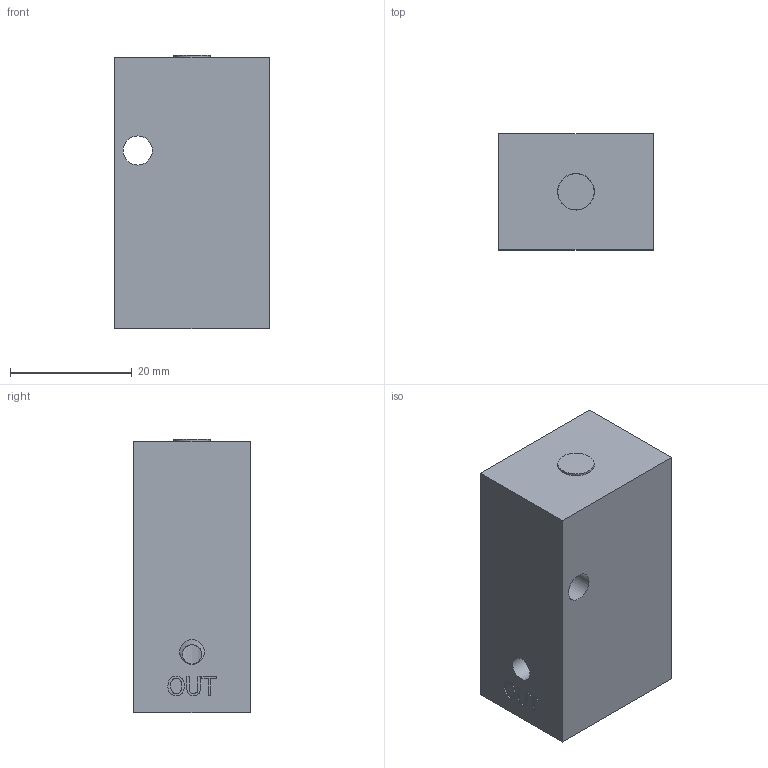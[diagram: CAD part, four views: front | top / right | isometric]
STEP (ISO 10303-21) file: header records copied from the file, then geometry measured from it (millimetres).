
FILE_DESCRIPTION(/* description */ (''),/* implementation_level */ '2;1');
FILE_NAME(/* name */ 'L:\ALADCO\Advertising\3D Content\Valves\Step Files - 2014-11-19 thru Present\41320X.stp',/* time_stamp */ '2014-11-19T15:06:41-06:00',/* author */ ('dmatz'),/* organization */ (''),/* preprocessor_version */ 'ST-DEVELOPER v15.2',/* originating_system */ 'Autodesk Inventor 2014',/* authorisation */ '');
FILE_SCHEMA (('AUTOMOTIVE_DESIGN { 1 0 10303 214 3 1 1 }'));
Length unit declared in the file: inch
Products named in the file (4): 553200UNF; 301199; 301170; 513201
Bounding box: 25.4 x 19.05 x 44.81 mm (x, y, z)
Volume: 18208.4 mm3; surface area: 7864.8 mm2
Topology: 3 solids, 3 shells, 186 faces, 468 edges, 309 vertices
Faces by surface type: plane 104, bspline 44, cylinder 23, torus 11, cone 4
Full cylindrical faces by diameter (mm): 1.168 x1, 2.946 x1, 3.175 x4, 4.039 x3, 4.762 x2, 5.944 x2, 5.994 x1, 6.68 x1, 7.112 x1, 8.56 x2, 9.55 x1, 11.049 x3, 11.1 x1
Entity records: 6086 total; most frequent: CARTESIAN_POINT 2005, ORIENTED_EDGE 828, DIRECTION 660, EDGE_CURVE 414, VERTEX_POINT 296, EDGE_LOOP 266, LINE 266, VECTOR 266
